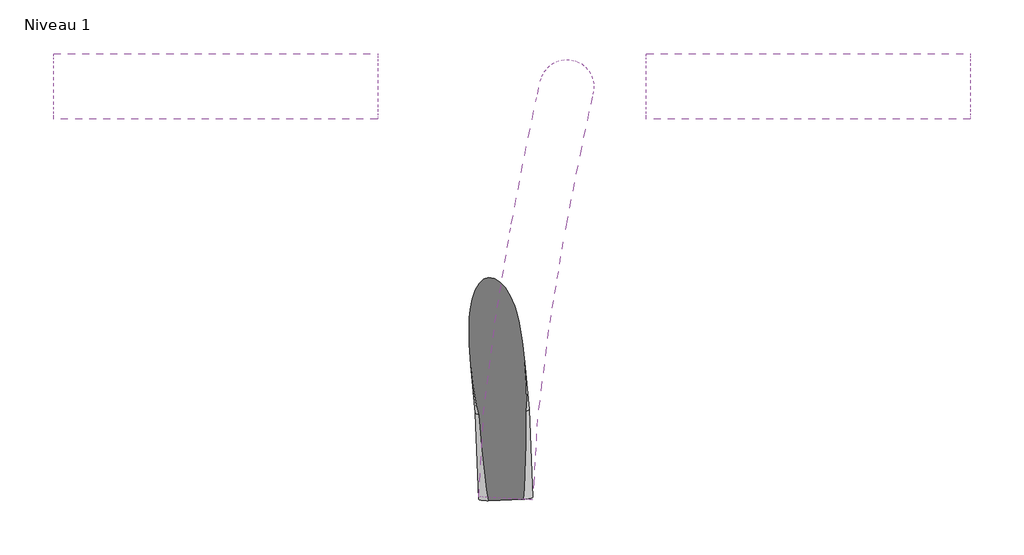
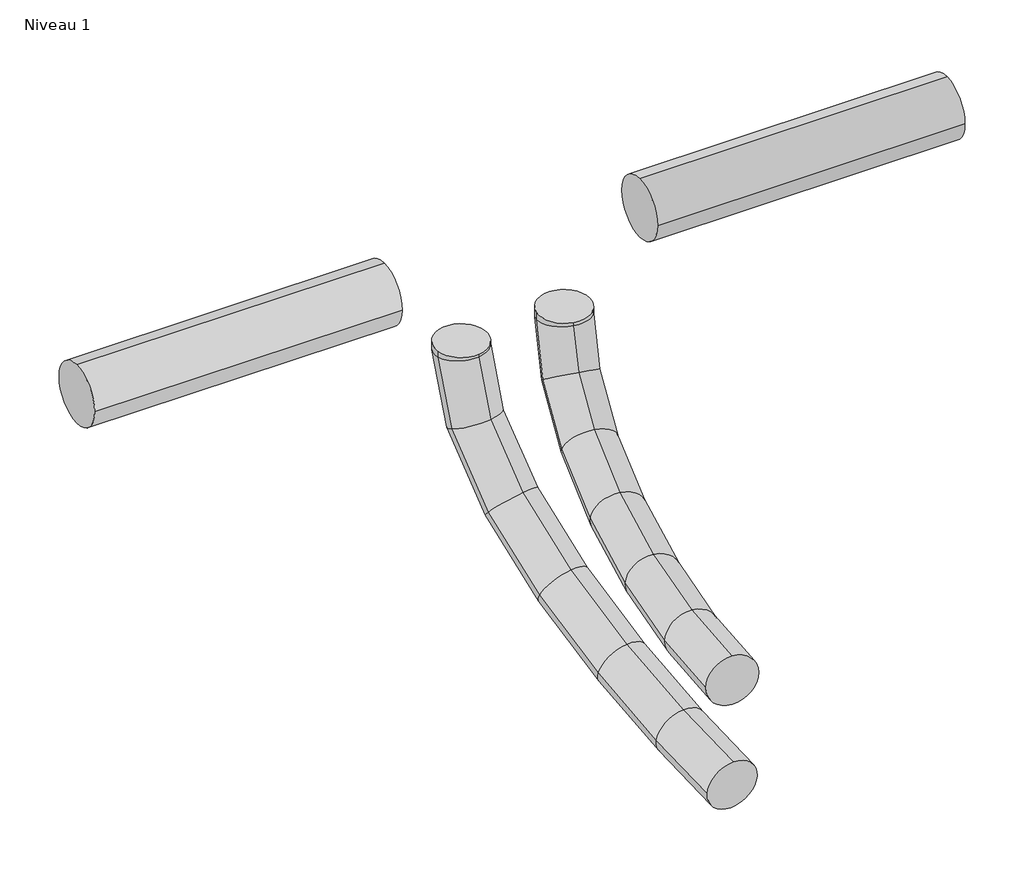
# One storey, incomplete: 4 pipe segments.
"""IFC4 building model written with IfcOpenShell, lengths in millimetres."""

from ifc_helpers import new_model, si_unit, point, frame, frame_2d, origin, place, context, project, spatial, circle_curve, ellipse_curve, trimmed, segment, composite_curve, outline, extrude, element, save
from ifc_brep_helpers import plane_surface, cylinder_surface, advanced_brep

model = new_model("IFC4")

# Units and contexts
model_context = context("Model", 3, world=origin())
ifc_project = project(units=[si_unit("LENGTHUNIT", "METRE", prefix="MILLI")], contexts=[model_context])

# Site, building, storey
site = spatial("IfcSite", under=ifc_project)
building = spatial("IfcBuilding", under=site)
storey = spatial("IfcBuildingStorey", under=building, Name="Niveau 1", Elevation=0.0)

# Pipe segments
placement = place(None, origin())
element("IfcPipeSegment", 1, ObjectType="Souple - Circulaire", at=placement, inside=storey, context=model_context, shape_type="AdvancedBrep", body=[
    advanced_brep(
    [(6134.0422005, -8730.8880876, 1289.4840259), (6159.0128396, -8732.1100277, 1264.484545), (6183.9656576, -8733.6536684, 1289.4840259), (6158.9950185, -8732.4317283, 1314.4835069), (6138.2803601, -8654.3820664, 1289.9777873), (6163.2322391, -8655.9426565, 1264.9761207), (6188.1088431, -8658.8620911, 1289.9667225), (6163.156964, -8657.301501, 1314.968389), (6191.02571, -8345.4114907, 1423.8970087), (6210.86795, -8374.6738474, 1423.8970087), (6240.1303066, -8354.8316074, 1423.8970087), (6220.2880666, -8325.5692508, 1423.8970087), (6148.9234748, -8569.0232566, 1294.1033604), (6173.9109688, -8570.2982116, 1269.1154992), (6198.419091, -8576.1729051, 1293.963267), (6173.4315971, -8574.8979501, 1318.9511282), (6162.6694558, -8485.7273267, 1305.7387103), (6188.0525916, -8484.6048277, 1281.085742), (6211.9124815, -8494.4075866, 1305.3848105), (6186.5293457, -8495.5300856, 1330.0377788), (6176.3662015, -8414.1559772, 1328.7586165), (6202.8126577, -8407.4771747, 1305.8927542), (6225.4551073, -8423.6415797, 1328.1456898), (6199.0086511, -8430.3203822, 1351.0115521), (6186.8521986, -8364.1734126, 1366.9394332), (6215.1598796, -8348.6228945, 1350.850521), (6235.9224729, -8373.7478243, 1366.2586666), (6207.6147919, -8389.2983424, 1382.3475788), (6191.02571, -8345.4114907, 1416.055266), (6220.2880666, -8325.5692508, 1411.2014231), (6240.1303066, -8354.8316074, 1415.7784202), (6210.86795, -8374.6738474, 1420.6322631)],
    [
        (0, 1, circle_curve(frame((6159.003929, -8732.270878, 1289.4840259), z_axis=(-0.05531046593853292, -0.9984484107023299, -0.006443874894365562), x_axis=(-0.9984691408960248, 0.05531161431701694, 0.0)), 25.0)),
        (1, 2, circle_curve(frame((6159.003929, -8732.270878, 1289.4840259), z_axis=(-0.05531046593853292, -0.9984484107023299, -0.006443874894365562), x_axis=(-0.9984691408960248, 0.05531161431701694, 0.0)), 25.0)),
        (2, 3, circle_curve(frame((6159.003929, -8732.270878, 1289.4840259), z_axis=(-0.05531046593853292, -0.9984484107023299, -0.006443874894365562), x_axis=(-0.9984691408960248, 0.05531161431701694, 0.0)), 25.0)),
        (3, 0, circle_curve(frame((6159.003929, -8732.270878, 1289.4840259), z_axis=(-0.05531046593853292, -0.9984484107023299, -0.006443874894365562), x_axis=(-0.9984691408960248, 0.05531161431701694, 0.0)), 25.0)),
        (0, 4),
        (4, 5, ellipse_curve(frame((6163.1946016, -8656.6220787, 1289.9722549), z_axis=(-0.08952057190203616, -0.9956135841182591, -0.027196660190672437), x_axis=(0.8512210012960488, -0.09065789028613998, 0.5169177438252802)), 25.0201293, 25.0)),
        (5, 1),
        (5, 6, ellipse_curve(frame((6163.1946016, -8656.6220787, 1289.9722549), z_axis=(-0.08952057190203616, -0.9956135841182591, -0.027196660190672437), x_axis=(0.8512210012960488, -0.09065789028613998, 0.5169177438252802)), 25.0201293, 25.0)),
        (6, 2),
        (6, 7, ellipse_curve(frame((6163.1946016, -8656.6220787, 1289.9722549), z_axis=(-0.08952057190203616, -0.9956135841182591, -0.027196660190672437), x_axis=(0.8512210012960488, -0.09065789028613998, 0.5169177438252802)), 25.0201293, 25.0)),
        (7, 3),
        (7, 4, ellipse_curve(frame((6163.1946016, -8656.6220787, 1289.9722549), z_axis=(-0.08952057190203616, -0.9956135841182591, -0.027196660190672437), x_axis=(0.8512210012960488, -0.09065789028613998, 0.5169177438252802)), 25.0201293, 25.0)),
        (8, 9, circle_curve(frame((6215.5780083, -8350.1215491, 1423.8970087), z_axis=(0.0, 0.0, 1.0), x_axis=(-0.9820919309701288, 0.18840233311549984, 0.0)), 25.0)),
        (9, 10, circle_curve(frame((6215.5780083, -8350.1215491, 1423.8970087), z_axis=(0.0, 0.0, 1.0), x_axis=(-0.9820919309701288, 0.18840233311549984, 0.0)), 25.0)),
        (10, 11, circle_curve(frame((6215.5780083, -8350.1215491, 1423.8970087), z_axis=(0.0, 0.0, 1.0), x_axis=(-0.9820919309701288, 0.18840233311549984, 0.0)), 25.0)),
        (11, 8, circle_curve(frame((6215.5780083, -8350.1215491, 1423.8970087), z_axis=(0.0, 0.0, 1.0), x_axis=(-0.9820919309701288, 0.18840233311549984, 0.0)), 25.0)),
        (4, 12),
        (12, 13, ellipse_curve(frame((6173.6712829, -8572.5980809, 1294.0333137), z_axis=(-0.14261159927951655, -0.985463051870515, -0.09232824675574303), x_axis=(0.38760880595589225, -0.14143619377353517, 0.9109090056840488)), 25.0296346, 25.0)),
        (13, 5),
        (13, 14, ellipse_curve(frame((6173.6712829, -8572.5980809, 1294.0333137), z_axis=(-0.14261159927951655, -0.985463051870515, -0.09232824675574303), x_axis=(0.38760880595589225, -0.14143619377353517, 0.9109090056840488)), 25.0296346, 25.0)),
        (14, 6),
        (14, 15, ellipse_curve(frame((6173.6712829, -8572.5980809, 1294.0333137), z_axis=(-0.14261159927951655, -0.985463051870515, -0.09232824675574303), x_axis=(0.38760880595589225, -0.14143619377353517, 0.9109090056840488)), 25.0296346, 25.0)),
        (15, 7),
        (15, 12, ellipse_curve(frame((6173.6712829, -8572.5980809, 1294.0333137), z_axis=(-0.14261159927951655, -0.985463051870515, -0.09232824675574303), x_axis=(0.38760880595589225, -0.14143619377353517, 0.9109090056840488)), 25.0296346, 25.0)),
        (12, 16),
        (16, 17, ellipse_curve(frame((6187.2909687, -8490.0674567, 1305.5617604), z_axis=(-0.17088776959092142, -0.9604879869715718, -0.21968203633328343), x_axis=(0.10508744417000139, -0.2394573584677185, 0.9652029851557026)), 25.0914885, 25.0)),
        (17, 13),
        (17, 18, ellipse_curve(frame((6187.2909687, -8490.0674567, 1305.5617604), z_axis=(-0.17088776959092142, -0.9604879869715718, -0.21968203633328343), x_axis=(0.10508744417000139, -0.2394573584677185, 0.9652029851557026)), 25.0914885, 25.0)),
        (18, 14),
        (18, 19, ellipse_curve(frame((6187.2909687, -8490.0674567, 1305.5617604), z_axis=(-0.17088776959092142, -0.9604879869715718, -0.21968203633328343), x_axis=(0.10508744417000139, -0.2394573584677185, 0.9652029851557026)), 25.0914885, 25.0)),
        (19, 15),
        (19, 16, ellipse_curve(frame((6187.2909687, -8490.0674567, 1305.5617604), z_axis=(-0.17088776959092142, -0.9604879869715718, -0.21968203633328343), x_axis=(0.10508744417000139, -0.2394573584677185, 0.9652029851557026)), 25.0914885, 25.0)),
        (16, 20),
        (20, 21, ellipse_curve(frame((6200.9106544, -8418.8987784, 1328.4521532), z_axis=(-0.17429788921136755, -0.8725147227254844, -0.456440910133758), x_axis=(-0.044159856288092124, -0.45614377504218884, 0.8888097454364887)), 25.357748, 25.0)),
        (21, 17),
        (21, 22, ellipse_curve(frame((6200.9106544, -8418.8987784, 1328.4521532), z_axis=(-0.17429788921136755, -0.8725147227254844, -0.456440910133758), x_axis=(-0.044159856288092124, -0.45614377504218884, 0.8888097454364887)), 25.357748, 25.0)),
        (22, 18),
        (22, 23, ellipse_curve(frame((6200.9106544, -8418.8987784, 1328.4521532), z_axis=(-0.17429788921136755, -0.8725147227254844, -0.456440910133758), x_axis=(-0.044159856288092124, -0.45614377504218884, 0.8888097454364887)), 25.357748, 25.0)),
        (23, 19),
        (23, 20, ellipse_curve(frame((6200.9106544, -8418.8987784, 1328.4521532), z_axis=(-0.17429788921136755, -0.8725147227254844, -0.456440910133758), x_axis=(-0.044159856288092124, -0.45614377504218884, 0.8888097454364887)), 25.357748, 25.0)),
        (20, 24),
        (24, 25, ellipse_curve(frame((6211.3873358, -8368.9606185, 1366.5990499), z_axis=(-0.1266485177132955, -0.5925278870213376, -0.795531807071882), x_axis=(-0.1554820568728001, -0.7802184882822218, 0.6058749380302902)), 25.9976426, 25.0)),
        (25, 21),
        (25, 26, ellipse_curve(frame((6211.3873358, -8368.9606185, 1366.5990499), z_axis=(-0.1266485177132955, -0.5925278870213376, -0.795531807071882), x_axis=(-0.1554820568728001, -0.7802184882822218, 0.6058749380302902)), 25.9976426, 25.0)),
        (26, 22),
        (26, 27, ellipse_curve(frame((6211.3873358, -8368.9606185, 1366.5990499), z_axis=(-0.1266485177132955, -0.5925278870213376, -0.795531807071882), x_axis=(-0.1554820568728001, -0.7802184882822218, 0.6058749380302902)), 25.9976426, 25.0)),
        (27, 23),
        (27, 24, ellipse_curve(frame((6211.3873358, -8368.9606185, 1366.5990499), z_axis=(-0.1266485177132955, -0.5925278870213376, -0.795531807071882), x_axis=(-0.1554820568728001, -0.7802184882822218, 0.6058749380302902)), 25.9976426, 25.0)),
        (24, 28),
        (28, 29, ellipse_curve(frame((6215.5780083, -8350.1215491, 1415.9168431), z_axis=(-0.0402630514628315, -0.1810015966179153, -0.9826582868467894), x_axis=(-0.2133729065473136, -0.9592128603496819, 0.1854257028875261)), 25.4411939, 25.0)),
        (29, 25),
        (29, 30, ellipse_curve(frame((6215.5780083, -8350.1215491, 1415.9168431), z_axis=(-0.0402630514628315, -0.1810015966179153, -0.9826582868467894), x_axis=(-0.2133729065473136, -0.9592128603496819, 0.1854257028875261)), 25.4411939, 25.0)),
        (30, 26),
        (30, 31, ellipse_curve(frame((6215.5780083, -8350.1215491, 1415.9168431), z_axis=(-0.0402630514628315, -0.1810015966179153, -0.9826582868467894), x_axis=(-0.2133729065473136, -0.9592128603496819, 0.1854257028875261)), 25.4411939, 25.0)),
        (31, 27),
        (31, 28, ellipse_curve(frame((6215.5780083, -8350.1215491, 1415.9168431), z_axis=(-0.0402630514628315, -0.1810015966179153, -0.9826582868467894), x_axis=(-0.2133729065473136, -0.9592128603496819, 0.1854257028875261)), 25.4411939, 25.0)),
        (28, 8),
        (11, 29),
        (10, 30),
        (9, 31),
    ],
    [
        plane_surface(frame((6159.003929, -8732.4322219, 1314.4835053), z_axis=(-0.055310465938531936, -0.9984484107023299, -0.006443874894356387), x_axis=(0.9984692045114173, -0.055309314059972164, -0.0003569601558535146))),
        cylinder_surface(frame((6159.003929, -8732.270878, 1289.4840259), z_axis=(-0.05531046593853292, -0.9984484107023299, -0.006443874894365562), x_axis=(-0.9984691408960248, 0.05531161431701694, 0.0)), 25.0),
        plane_surface(frame((6215.5780083, -8375.1215491, 1423.8970087), z_axis=(0.0, 0.0, 1.0), x_axis=(1.0, 0.0, 0.0))),
        cylinder_surface(frame((6163.1946016, -8656.6220787, 1289.9722549), z_axis=(-0.12358663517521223, -0.991176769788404, -0.04790568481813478), x_axis=(-0.9923254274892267, 0.12363964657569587, 0.0018664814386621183)), 25.0),
        cylinder_surface(frame((6173.6712829, -8572.5980809, 1294.0333137), z_axis=(-0.16129886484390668, -0.9774157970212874, -0.13653217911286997), x_axis=(-0.9867628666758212, 0.16207760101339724, 0.005467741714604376)), 25.0),
        cylinder_surface(frame((6187.2909687, -8490.0674567, 1305.5617604), z_axis=(-0.17923049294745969, -0.9365559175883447, -0.3012298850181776), x_axis=(-0.9827466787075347, 0.18465089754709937, 0.010630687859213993)), 25.0),
        cylinder_surface(frame((6200.9106544, -8418.8987784, 1328.4521532), z_axis=(-0.1644472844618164, -0.7838545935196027, -0.5987729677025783), x_axis=(-0.9808894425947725, 0.1939480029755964, 0.01549430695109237)), 25.0),
        cylinder_surface(frame((6211.3873358, -8368.9606185, 1366.5990499), z_axis=(-0.07912964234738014, -0.3557254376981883, -0.9312346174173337), x_axis=(-0.9816537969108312, 0.1903719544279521, 0.01069308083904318)), 25.0),
        cylinder_surface(frame((6215.5780083, -8350.1215491, 1415.9168431), z_axis=(0.0, 0.0, -1.0), x_axis=(-0.9820919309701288, 0.18840233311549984, 0.0)), 25.0),
    ],
    [
        (0, [[1, 2, 3, 4]]),
        (1, [[-1, 5, 6, 7]]),
        (1, [[-2, -7, 8, 9]]),
        (1, [[-3, -9, 10, 11]]),
        (1, [[-4, -11, 12, -5]]),
        (2, [[13, 14, 15, 16]]),
        (3, [[-6, 17, 18, 19]]),
        (3, [[-8, -19, 20, 21]]),
        (3, [[-10, -21, 22, 23]]),
        (3, [[-12, -23, 24, -17]]),
        (4, [[-18, 25, 26, 27]]),
        (4, [[-20, -27, 28, 29]]),
        (4, [[-22, -29, 30, 31]]),
        (4, [[-24, -31, 32, -25]]),
        (5, [[-26, 33, 34, 35]]),
        (5, [[-28, -35, 36, 37]]),
        (5, [[-30, -37, 38, 39]]),
        (5, [[-32, -39, 40, -33]]),
        (6, [[-34, 41, 42, 43]]),
        (6, [[-36, -43, 44, 45]]),
        (6, [[-38, -45, 46, 47]]),
        (6, [[-40, -47, 48, -41]]),
        (7, [[-42, 49, 50, 51]]),
        (7, [[-44, -51, 52, 53]]),
        (7, [[-46, -53, 54, 55]]),
        (7, [[-48, -55, 56, -49]]),
        (8, [[-50, 57, -16, 58]]),
        (8, [[-52, -58, -15, 59]]),
        (8, [[-54, -59, -14, 60]]),
        (8, [[-56, -60, -13, -57]]),
    ],
),
])
element("IfcPipeSegment", 2, ObjectType="Souple - Circulaire", at=placement, inside=storey, context=model_context, shape_type="AdvancedBrep", body=[
    advanced_brep(
    [(6134.0429072, -8733.2477002, 1181.4668283), (6158.930834, -8729.9614492, 1156.5712132), (6184.0024159, -8731.2358636, 1181.4668283), (6159.114489, -8734.5221146, 1206.3624434), (6130.811077, -8652.992354, 1188.8297979), (6155.5937013, -8647.0911479, 1164.1740901), (6180.7170758, -8649.6517165, 1188.9517078), (6155.9344515, -8655.5529226, 1213.6074157), (6090.2344391, -8353.2984614, 1423.7490798), (6118.2086744, -8374.9188721, 1423.7490798), (6139.8290851, -8346.9446368, 1423.7490798), (6111.8548498, -8325.3242261, 1423.7490798), (6122.7607803, -8568.5065154, 1210.2901241), (6147.0857188, -8557.8020116, 1186.8545063), (6172.4744468, -8563.1473982, 1210.9247499), (6148.1495083, -8573.8519019, 1234.3603677), (6112.238051, -8487.5581011, 1245.2421545), (6135.9684101, -8472.2796641, 1223.7814766), (6161.8163727, -8481.1578143, 1246.326338), (6138.0860136, -8496.4362514, 1267.7870159), (6101.6744134, -8418.8905691, 1292.9256432), (6124.6125049, -8398.4621013, 1275.0412032), (6151.1992069, -8412.1423295, 1294.251449), (6128.2611154, -8432.5707972, 1312.135889), (6093.5108859, -8371.1782268, 1352.6496434), (6115.5326124, -8345.393996, 1341.4692884), (6143.0698087, -8364.6294585, 1353.7257608), (6121.0480821, -8390.4136893, 1364.9061158), (6090.2344391, -8353.2984614, 1417.3589961), (6111.8548498, -8325.3242261, 1414.1045712), (6139.8290851, -8346.9446368, 1417.729585), (6118.2086744, -8374.9188721, 1420.9840099)],
    [
        (0, 1, circle_curve(frame((6159.0226615, -8732.2417819, 1181.4668283), z_axis=(0.04006872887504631, -0.9950181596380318, -0.09128723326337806), x_axis=(-0.9991901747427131, -0.04023673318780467, 0.0)), 25.0)),
        (1, 2, circle_curve(frame((6159.0226615, -8732.2417819, 1181.4668283), z_axis=(0.04006872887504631, -0.9950181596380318, -0.09128723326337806), x_axis=(-0.9991901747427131, -0.04023673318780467, 0.0)), 25.0)),
        (2, 3, circle_curve(frame((6159.0226615, -8732.2417819, 1181.4668283), z_axis=(0.04006872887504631, -0.9950181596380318, -0.09128723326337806), x_axis=(-0.9991901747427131, -0.04023673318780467, 0.0)), 25.0)),
        (3, 0, circle_curve(frame((6159.0226615, -8732.2417819, 1181.4668283), z_axis=(0.04006872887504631, -0.9950181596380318, -0.09128723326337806), x_axis=(-0.9991901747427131, -0.04023673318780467, 0.0)), 25.0)),
        (0, 4),
        (4, 5, ellipse_curve(frame((6155.7640764, -8651.3220352, 1188.8907529), z_axis=(0.06624127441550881, -0.9834228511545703, -0.16879451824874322), x_axis=(-0.3142961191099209, -0.18111926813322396, 0.9318872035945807)), 25.0856277, 25.0)),
        (5, 1),
        (5, 6, ellipse_curve(frame((6155.7640764, -8651.3220352, 1188.8907529), z_axis=(0.06624127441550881, -0.9834228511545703, -0.16879451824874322), x_axis=(-0.3142961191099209, -0.18111926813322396, 0.9318872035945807)), 25.0856277, 25.0)),
        (6, 2),
        (6, 7, ellipse_curve(frame((6155.7640764, -8651.3220352, 1188.8907529), z_axis=(0.06624127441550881, -0.9834228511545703, -0.16879451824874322), x_axis=(-0.3142961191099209, -0.18111926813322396, 0.9318872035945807)), 25.0856277, 25.0)),
        (7, 3),
        (7, 4, ellipse_curve(frame((6155.7640764, -8651.3220352, 1188.8907529), z_axis=(0.06624127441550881, -0.9834228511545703, -0.16879451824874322), x_axis=(-0.3142961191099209, -0.18111926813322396, 0.9318872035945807)), 25.0856277, 25.0)),
        (8, 9, circle_curve(frame((6115.0317621, -8350.1215491, 1423.7490798), z_axis=(0.0, 0.0, 1.0), x_axis=(-0.9918929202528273, -0.1270764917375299, 0.0)), 25.0)),
        (9, 10, circle_curve(frame((6115.0317621, -8350.1215491, 1423.7490798), z_axis=(0.0, 0.0, 1.0), x_axis=(-0.9918929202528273, -0.1270764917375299, 0.0)), 25.0)),
        (10, 11, circle_curve(frame((6115.0317621, -8350.1215491, 1423.7490798), z_axis=(0.0, 0.0, 1.0), x_axis=(-0.9918929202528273, -0.1270764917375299, 0.0)), 25.0)),
        (11, 8, circle_curve(frame((6115.0317621, -8350.1215491, 1423.7490798), z_axis=(0.0, 0.0, 1.0), x_axis=(-0.9918929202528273, -0.1270764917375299, 0.0)), 25.0)),
        (4, 12),
        (12, 13, ellipse_curve(frame((6147.6176135, -8565.8269568, 1210.607437), z_axis=(0.1055704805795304, -0.9413781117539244, -0.3204093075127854), x_axis=(-0.16584937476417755, -0.3343651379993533, 0.9277359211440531)), 25.0804157, 25.0)),
        (13, 5),
        (13, 14, ellipse_curve(frame((6147.6176135, -8565.8269568, 1210.607437), z_axis=(0.1055704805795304, -0.9413781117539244, -0.3204093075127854), x_axis=(-0.16584937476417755, -0.3343651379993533, 0.9277359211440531)), 25.0804157, 25.0)),
        (14, 6),
        (14, 15, ellipse_curve(frame((6147.6176135, -8565.8269568, 1210.607437), z_axis=(0.1055704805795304, -0.9413781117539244, -0.3204093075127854), x_axis=(-0.16584937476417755, -0.3343651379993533, 0.9277359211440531)), 25.0804157, 25.0)),
        (15, 7),
        (15, 12, ellipse_curve(frame((6147.6176135, -8565.8269568, 1210.607437), z_axis=(0.1055704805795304, -0.9413781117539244, -0.3204093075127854), x_axis=(-0.16584937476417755, -0.3343651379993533, 0.9277359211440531)), 25.0804157, 25.0)),
        (12, 16),
        (16, 17, ellipse_curve(frame((6137.0272118, -8484.3579577, 1245.7842463), z_axis=(0.12253241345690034, -0.8675016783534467, -0.4821064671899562), x_axis=(-0.03470554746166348, -0.4892151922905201, 0.8714723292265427)), 25.1230052, 25.0)),
        (17, 13),
        (17, 18, ellipse_curve(frame((6137.0272118, -8484.3579577, 1245.7842463), z_axis=(0.12253241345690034, -0.8675016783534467, -0.4821064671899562), x_axis=(-0.03470554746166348, -0.4892151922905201, 0.8714723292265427)), 25.1230052, 25.0)),
        (18, 14),
        (18, 19, ellipse_curve(frame((6137.0272118, -8484.3579577, 1245.7842463), z_axis=(0.12253241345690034, -0.8675016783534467, -0.4821064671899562), x_axis=(-0.03470554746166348, -0.4892151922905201, 0.8714723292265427)), 25.1230052, 25.0)),
        (19, 15),
        (19, 16, ellipse_curve(frame((6137.0272118, -8484.3579577, 1245.7842463), z_axis=(0.12253241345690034, -0.8675016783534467, -0.4821064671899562), x_axis=(-0.03470554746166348, -0.4892151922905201, 0.8714723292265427)), 25.1230052, 25.0)),
        (16, 20),
        (20, 21, ellipse_curve(frame((6126.4368101, -8415.5164493, 1293.5885461), z_axis=(0.11699072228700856, -0.7252982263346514, -0.6784214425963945), x_axis=(0.06669964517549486, -0.6758317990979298, 0.7340317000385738)), 25.2622885, 25.0)),
        (21, 17),
        (21, 22, ellipse_curve(frame((6126.4368101, -8415.5164493, 1293.5885461), z_axis=(0.11699072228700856, -0.7252982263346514, -0.6784214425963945), x_axis=(0.06669964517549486, -0.6758317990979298, 0.7340317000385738)), 25.2622885, 25.0)),
        (22, 18),
        (22, 23, ellipse_curve(frame((6126.4368101, -8415.5164493, 1293.5885461), z_axis=(0.11699072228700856, -0.7252982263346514, -0.6784214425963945), x_axis=(0.06669964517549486, -0.6758317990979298, 0.7340317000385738)), 25.2622885, 25.0)),
        (23, 19),
        (23, 20, ellipse_curve(frame((6126.4368101, -8415.5164493, 1293.5885461), z_axis=(0.11699072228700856, -0.7252982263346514, -0.6784214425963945), x_axis=(0.06669964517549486, -0.6758317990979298, 0.7340317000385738)), 25.2622885, 25.0)),
        (20, 24),
        (24, 25, ellipse_curve(frame((6118.2903473, -8367.9038427, 1353.1877021), z_axis=(0.07910252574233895, -0.45267631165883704, -0.8881593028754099), x_axis=(0.1420194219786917, -0.876745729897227, 0.45950778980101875)), 25.5274817, 25.0)),
        (25, 21),
        (25, 26, ellipse_curve(frame((6118.2903473, -8367.9038427, 1353.1877021), z_axis=(0.07910252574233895, -0.45267631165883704, -0.8881593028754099), x_axis=(0.1420194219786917, -0.876745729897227, 0.45950778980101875)), 25.5274817, 25.0)),
        (26, 22),
        (26, 27, ellipse_curve(frame((6118.2903473, -8367.9038427, 1353.1877021), z_axis=(0.07910252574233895, -0.45267631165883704, -0.8881593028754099), x_axis=(0.1420194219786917, -0.876745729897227, 0.45950778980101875)), 25.5274817, 25.0)),
        (27, 23),
        (27, 24, ellipse_curve(frame((6118.2903473, -8367.9038427, 1353.1877021), z_axis=(0.07910252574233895, -0.45267631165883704, -0.8881593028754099), x_axis=(0.1420194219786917, -0.876745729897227, 0.45950778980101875)), 25.5274817, 25.0)),
        (24, 28),
        (28, 29, ellipse_curve(frame((6115.0317621, -8350.1215491, 1417.5442906), z_axis=(0.024603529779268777, -0.1342629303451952, -0.9906402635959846), x_axis=(0.1785604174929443, -0.9744148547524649, 0.13649860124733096)), 25.2362042, 25.0)),
        (29, 25),
        (29, 30, ellipse_curve(frame((6115.0317621, -8350.1215491, 1417.5442906), z_axis=(0.024603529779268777, -0.1342629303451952, -0.9906402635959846), x_axis=(0.1785604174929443, -0.9744148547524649, 0.13649860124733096)), 25.2362042, 25.0)),
        (30, 26),
        (30, 31, ellipse_curve(frame((6115.0317621, -8350.1215491, 1417.5442906), z_axis=(0.024603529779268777, -0.1342629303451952, -0.9906402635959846), x_axis=(0.1785604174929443, -0.9744148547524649, 0.13649860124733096)), 25.2362042, 25.0)),
        (31, 27),
        (31, 28, ellipse_curve(frame((6115.0317621, -8350.1215491, 1417.5442906), z_axis=(0.024603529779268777, -0.1342629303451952, -0.9906402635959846), x_axis=(0.1785604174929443, -0.9744148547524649, 0.13649860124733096)), 25.2362042, 25.0)),
        (28, 8),
        (11, 29),
        (10, 30),
        (9, 31),
    ],
    [
        plane_surface(frame((6159.0226615, -8734.525797, 1206.3622752), z_axis=(0.04006872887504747, -0.9950181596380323, -0.09128723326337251), x_axis=(0.9991969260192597, 0.03990115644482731, 0.003660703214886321))),
        cylinder_surface(frame((6159.0226615, -8732.2417819, 1181.4668283), z_axis=(0.04006872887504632, -0.995018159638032, -0.09128723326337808), x_axis=(-0.9991901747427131, -0.04023673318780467, 0.0)), 25.0),
        plane_surface(frame((6115.0317621, -8375.1215491, 1423.7490798), z_axis=(0.0, 0.0, 1.0), x_axis=(1.0, 0.0, 0.0))),
        cylinder_surface(frame((6155.7640764, -8651.3220352, 1188.8907529), z_axis=(0.09196160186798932, -0.9651138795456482, -0.24514947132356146), x_axis=(-0.9956637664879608, -0.09259005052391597, -0.008985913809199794)), 25.0),
        cylinder_surface(frame((6147.6176135, -8565.8269568, 1210.607437), z_axis=(0.11850237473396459, -0.9116056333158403, -0.3936144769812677), x_axis=(-0.9924816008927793, -0.12096560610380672, -0.018643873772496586)), 25.0),
        cylinder_surface(frame((6137.0272118, -8484.3579577, 1245.7842463), z_axis=(0.12536258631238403, -0.8149029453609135, -0.5658775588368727), x_axis=(-0.9905982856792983, -0.13429905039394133, -0.02605381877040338)), 25.0),
        cylinder_surface(frame((6126.4368101, -8415.5164493, 1293.5885461), z_axis=(0.10618952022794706, -0.6206325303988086, -0.7768777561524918), x_axis=(-0.9904091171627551, -0.13547182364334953, -0.02715079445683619)), 25.0),
        cylinder_surface(frame((6118.2903473, -8367.9038427, 1353.1877021), z_axis=(0.048746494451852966, -0.2660125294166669, -0.962736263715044), x_axis=(-0.9915316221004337, -0.12904811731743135, -0.014547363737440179)), 25.0),
        cylinder_surface(frame((6115.0317621, -8350.1215491, 1417.5442906), z_axis=(0.0, 0.0, -1.0), x_axis=(-0.9918929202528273, -0.1270764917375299, 0.0)), 25.0),
    ],
    [
        (0, [[1, 2, 3, 4]]),
        (1, [[-1, 5, 6, 7]]),
        (1, [[-2, -7, 8, 9]]),
        (1, [[-3, -9, 10, 11]]),
        (1, [[-4, -11, 12, -5]]),
        (2, [[13, 14, 15, 16]]),
        (3, [[-6, 17, 18, 19]]),
        (3, [[-8, -19, 20, 21]]),
        (3, [[-10, -21, 22, 23]]),
        (3, [[-12, -23, 24, -17]]),
        (4, [[-18, 25, 26, 27]]),
        (4, [[-20, -27, 28, 29]]),
        (4, [[-22, -29, 30, 31]]),
        (4, [[-24, -31, 32, -25]]),
        (5, [[-26, 33, 34, 35]]),
        (5, [[-28, -35, 36, 37]]),
        (5, [[-30, -37, 38, 39]]),
        (5, [[-32, -39, 40, -33]]),
        (6, [[-34, 41, 42, 43]]),
        (6, [[-36, -43, 44, 45]]),
        (6, [[-38, -45, 46, 47]]),
        (6, [[-40, -47, 48, -41]]),
        (7, [[-42, 49, 50, 51]]),
        (7, [[-44, -51, 52, 53]]),
        (7, [[-46, -53, 54, 55]]),
        (7, [[-48, -55, 56, -49]]),
        (8, [[-50, 57, -16, 58]]),
        (8, [[-52, -58, -15, 59]]),
        (8, [[-54, -59, -14, 60]]),
        (8, [[-56, -60, -13, -57]]),
    ],
),
])
element("IfcPipeSegment", 3, ObjectType="Standard", at=placement, inside=storey, context=model_context, shape_type="SweptSolid", body=[
    extrude(outline(composite_curve([segment(trimmed(circle_curve(frame_2d((-8350.1215491, 1500.0)), 30.1625), [point((-8380.2840491, 1500.0))], [point((-8350.1215491, 1530.1625))], False, "CARTESIAN"), True, "CONTINUOUS"), segment(trimmed(circle_curve(frame_2d((-8350.1215491, 1500.0)), 30.1625), [point((-8350.1215491, 1530.1625))], [point((-8319.9590491, 1500.0))], False, "CARTESIAN"), True, "CONTINUOUS"), segment(trimmed(circle_curve(frame_2d((-8350.1215491, 1500.0)), 30.1625), [point((-8319.9590491, 1500.0))], [point((-8350.1215491, 1469.8375))], False, "CARTESIAN"), True, "CONTINUOUS"), segment(trimmed(circle_curve(frame_2d((-8350.1215491, 1500.0)), 30.1625), [point((-8350.1215491, 1469.8375))], [point((-8380.2840491, 1500.0))], False, "CARTESIAN"), True, "CONTINUOUS")], self_intersect=False)), frame((6289.3945768, 0.0, 0.0), z_axis=(1.0, 0.0, 0.0), x_axis=(0.0, 1.0, 0.0)), (0.0, 0.0, 1.0), 300.0),
])
element("IfcPipeSegment", 4, ObjectType="Standard", at=placement, inside=storey, context=model_context, shape_type="SweptSolid", body=[
    extrude(outline(composite_curve([segment(trimmed(circle_curve(frame_2d((-8350.1215491, 1500.0)), 30.1625), [point((-8319.9590491, 1500.0))], [point((-8350.1215491, 1469.8375))], False, "CARTESIAN"), True, "CONTINUOUS"), segment(trimmed(circle_curve(frame_2d((-8350.1215491, 1500.0)), 30.1625), [point((-8350.1215491, 1469.8375))], [point((-8380.2840491, 1500.0))], False, "CARTESIAN"), True, "CONTINUOUS"), segment(trimmed(circle_curve(frame_2d((-8350.1215491, 1500.0)), 30.1625), [point((-8380.2840491, 1500.0))], [point((-8350.1215491, 1530.1625))], False, "CARTESIAN"), True, "CONTINUOUS"), segment(trimmed(circle_curve(frame_2d((-8350.1215491, 1500.0)), 30.1625), [point((-8350.1215491, 1530.1625))], [point((-8319.9590491, 1500.0))], False, "CARTESIAN"), True, "CONTINUOUS")], self_intersect=False)), frame((5740.0317621, 0.0, 0.0), z_axis=(1.0, 0.0, 0.0), x_axis=(0.0, 1.0, 0.0)), (0.0, 0.0, 1.0), 300.0),
])

save(model, "model.ifc")
